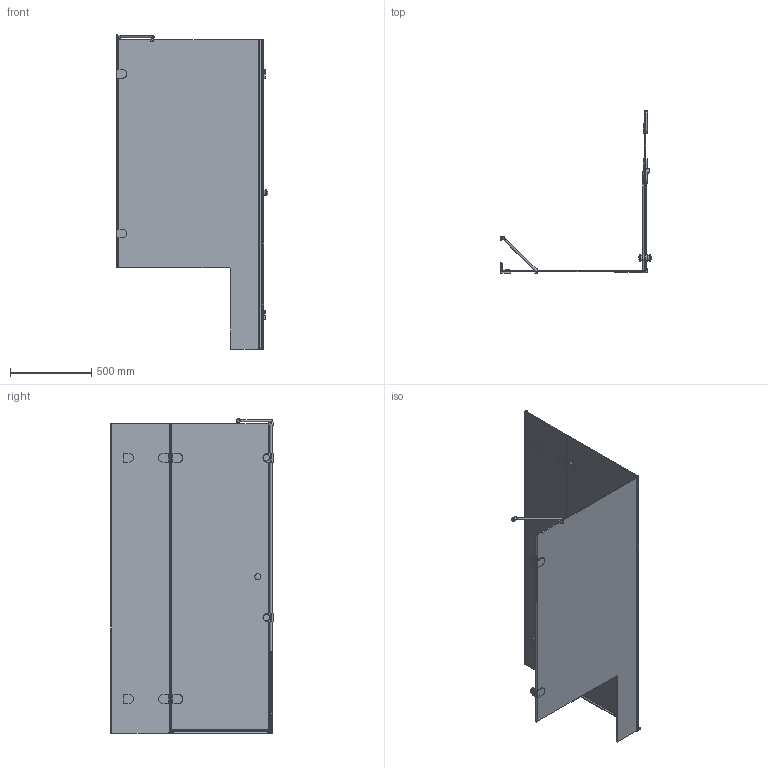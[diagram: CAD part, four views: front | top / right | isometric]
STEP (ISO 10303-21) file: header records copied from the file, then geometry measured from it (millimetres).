
FILE_DESCRIPTION(/* description */ (''),/* implementation_level */ '2;1');
FILE_NAME(/* name */ 'E:\Работа\Сергей\Душевые кабинки\! Работа\LUX SQUARE GK-003V1-2522\LUX SQUARE GK-003V1-2522 правая модель\LUX SQUARE GK-003V1-2522 ПРАВАЯ-3D.stp',/* time_stamp */ '2017-06-05T21:56:07+03:00',/* author */ ('PC'),/* organization */ (''),/* preprocessor_version */ 'ST-DEVELOPER v15.2',/* originating_system */ 'Autodesk Inventor 2014',/* authorisation */ '');
FILE_SCHEMA (('AUTOMOTIVE_DESIGN { 1 0 10303 214 3 1 1 }'));
Length unit declared in the file: millimetre
Products named in the file (1): LUX SQUARE GK-003V1-2522 ПРАВАЯ-
3D
Bounding box: 928 x 997.36 x 1931.5 mm (x, y, z)
Volume: 20139774 mm3; surface area: 6904695 mm2
Topology: 4 solids, 4 shells, 684 faces, 1689 edges, 1052 vertices
Faces by surface type: plane 481, cylinder 167, torus 18, sphere 8, bspline 8, cone 2
Full cylindrical faces by diameter (mm): 12 x1, 15 x1, 20 x2, 26 x1, 30 x2, 35 x2, 38 x4, 40 x2
Entity records: 20909 total; most frequent: CARTESIAN_POINT 4015, DIRECTION 3342, ORIENTED_EDGE 3300, EDGE_CURVE 1650, LINE 1216, VECTOR 1216, AXIS2_PLACEMENT_3D 1063, VERTEX_POINT 1040
